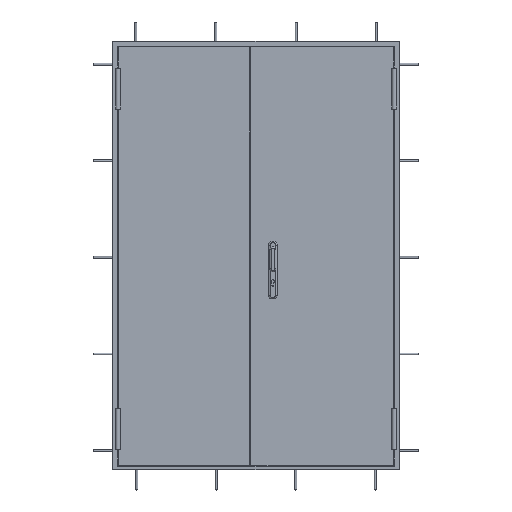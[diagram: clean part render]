
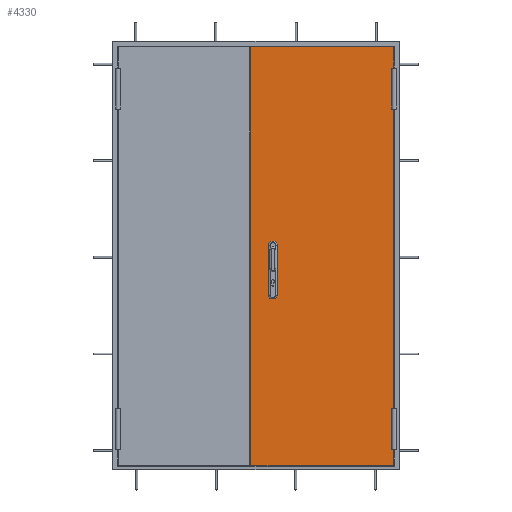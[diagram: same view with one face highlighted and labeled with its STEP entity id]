
A CAD part, top view. The second image highlights one B-rep face of the part: STEP entity #4330.
In plain terms, the highlighted planar face has unit normal (0, 0, 1).
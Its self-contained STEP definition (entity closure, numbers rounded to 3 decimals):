
#1276=DIRECTION('',(0.,1.,0.));
#1277=VECTOR('',#1276,2177.);
#1278=CARTESIAN_POINT('',(-26.5,-1096.5,0.));
#1279=LINE('',#1278,#1277);
#1280=DIRECTION('',(-1.,0.,0.));
#1281=VECTOR('',#1280,742.5);
#1282=CARTESIAN_POINT('',(716.,1080.5,0.));
#1283=LINE('',#1282,#1281);
#1284=DIRECTION('',(0.,1.,0.));
#1285=VECTOR('',#1284,110.5);
#1286=CARTESIAN_POINT('',(716.,970.,0.));
#1287=LINE('',#1286,#1285);
#1288=DIRECTION('',(-1.,0.,0.));
#1289=VECTOR('',#1288,10.25);
#1290=CARTESIAN_POINT('',(716.,970.,0.));
#1291=LINE('',#1290,#1289);
#1292=DIRECTION('',(0.,1.,0.));
#1293=VECTOR('',#1292,213.);
#1294=CARTESIAN_POINT('',(705.75,757.,0.));
#1295=LINE('',#1294,#1293);
#1296=DIRECTION('',(-1.,0.,0.));
#1297=VECTOR('',#1296,10.25);
#1298=CARTESIAN_POINT('',(716.,757.,0.));
#1299=LINE('',#1298,#1297);
#1300=DIRECTION('',(0.,1.,0.));
#1301=VECTOR('',#1300,1557.);
#1302=CARTESIAN_POINT('',(716.,-800.,0.));
#1303=LINE('',#1302,#1301);
#1304=DIRECTION('',(-1.,0.,0.));
#1305=VECTOR('',#1304,10.25);
#1306=CARTESIAN_POINT('',(716.,-800.,0.));
#1307=LINE('',#1306,#1305);
#1308=DIRECTION('',(0.,-1.,0.));
#1309=VECTOR('',#1308,213.);
#1310=CARTESIAN_POINT('',(705.75,-800.,0.));
#1311=LINE('',#1310,#1309);
#1312=DIRECTION('',(-1.,0.,0.));
#1313=VECTOR('',#1312,10.25);
#1314=CARTESIAN_POINT('',(716.,-1013.,0.));
#1315=LINE('',#1314,#1313);
#1316=DIRECTION('',(0.,1.,0.));
#1317=VECTOR('',#1316,83.5);
#1318=CARTESIAN_POINT('',(716.,-1096.5,0.));
#1319=LINE('',#1318,#1317);
#1320=DIRECTION('',(1.,0.,0.));
#1321=VECTOR('',#1320,742.5);
#1322=CARTESIAN_POINT('',(-26.5,-1096.5,0.));
#1323=LINE('',#1322,#1321);
#1372=DIRECTION('',(0.,-1.,0.));
#1373=VECTOR('',#1372,260.);
#1374=CARTESIAN_POINT('',(65.,50.4,0.));
#1375=LINE('',#1374,#1373);
#1376=CARTESIAN_POINT('',(85.,-209.6,0.));
#1377=DIRECTION('',(0.,0.,1.));
#1378=DIRECTION('',(-1.,0.,0.));
#1379=AXIS2_PLACEMENT_3D('',#1376,#1377,#1378);
#1381=DIRECTION('',(1.,0.,0.));
#1382=VECTOR('',#1381,5.);
#1383=CARTESIAN_POINT('',(85.,-229.6,0.));
#1384=LINE('',#1383,#1382);
#1385=CARTESIAN_POINT('',(90.,-209.6,0.));
#1386=DIRECTION('',(0.,0.,1.));
#1387=DIRECTION('',(0.,-1.,0.));
#1388=AXIS2_PLACEMENT_3D('',#1385,#1386,#1387);
#1390=DIRECTION('',(0.,1.,0.));
#1391=VECTOR('',#1390,260.);
#1392=CARTESIAN_POINT('',(110.,-209.6,0.));
#1393=LINE('',#1392,#1391);
#1394=CARTESIAN_POINT('',(90.,50.4,0.));
#1395=DIRECTION('',(0.,0.,1.));
#1396=DIRECTION('',(1.,0.,0.));
#1397=AXIS2_PLACEMENT_3D('',#1394,#1395,#1396);
#1399=DIRECTION('',(-1.,0.,0.));
#1400=VECTOR('',#1399,5.);
#1401=CARTESIAN_POINT('',(90.,70.4,0.));
#1402=LINE('',#1401,#1400);
#1403=CARTESIAN_POINT('',(85.,50.4,0.));
#1404=DIRECTION('',(0.,0.,1.));
#1405=DIRECTION('',(0.,1.,0.));
#1406=AXIS2_PLACEMENT_3D('',#1403,#1404,#1405);
#2319=CARTESIAN_POINT('',(716.,-1096.5,0.));
#2320=VERTEX_POINT('',#2319);
#2321=CARTESIAN_POINT('',(716.,1080.5,0.));
#2322=VERTEX_POINT('',#2321);
#2379=CARTESIAN_POINT('',(716.,-1013.,0.));
#2380=CARTESIAN_POINT('',(705.75,-1013.,0.));
#2381=VERTEX_POINT('',#2379);
#2382=VERTEX_POINT('',#2380);
#2383=CARTESIAN_POINT('',(716.,-800.,0.));
#2384=CARTESIAN_POINT('',(705.75,-800.,0.));
#2385=VERTEX_POINT('',#2383);
#2386=VERTEX_POINT('',#2384);
#2403=CARTESIAN_POINT('',(716.,970.,0.));
#2404=CARTESIAN_POINT('',(705.75,970.,0.));
#2405=VERTEX_POINT('',#2403);
#2406=VERTEX_POINT('',#2404);
#2407=CARTESIAN_POINT('',(716.,757.,0.));
#2408=CARTESIAN_POINT('',(705.75,757.,0.));
#2409=VERTEX_POINT('',#2407);
#2410=VERTEX_POINT('',#2408);
#2419=CARTESIAN_POINT('',(-26.5,-1096.5,0.));
#2420=CARTESIAN_POINT('',(-26.5,1080.5,0.));
#2421=VERTEX_POINT('',#2419);
#2422=VERTEX_POINT('',#2420);
#2691=CARTESIAN_POINT('',(65.,50.4,0.));
#2692=CARTESIAN_POINT('',(65.,-209.6,0.));
#2693=VERTEX_POINT('',#2691);
#2694=VERTEX_POINT('',#2692);
#2695=CARTESIAN_POINT('',(85.,-229.6,0.));
#2696=CARTESIAN_POINT('',(90.,-229.6,0.));
#2697=VERTEX_POINT('',#2695);
#2698=VERTEX_POINT('',#2696);
#2699=CARTESIAN_POINT('',(110.,-209.6,0.));
#2700=CARTESIAN_POINT('',(110.,50.4,0.));
#2701=VERTEX_POINT('',#2699);
#2702=VERTEX_POINT('',#2700);
#2703=CARTESIAN_POINT('',(90.,70.4,0.));
#2704=CARTESIAN_POINT('',(85.,70.4,0.));
#2705=VERTEX_POINT('',#2703);
#2706=VERTEX_POINT('',#2704);
#4282=CARTESIAN_POINT('',(0.,0.,0.));
#4283=DIRECTION('',(0.,0.,1.));
#4284=DIRECTION('',(1.,0.,0.));
#4285=AXIS2_PLACEMENT_3D('',#4282,#4283,#4284);
#4286=PLANE('',#4285);
#4288=ORIENTED_EDGE('',*,*,#4287,.T.);
#4290=ORIENTED_EDGE('',*,*,#4289,.F.);
#4292=ORIENTED_EDGE('',*,*,#4291,.F.);
#4293=ORIENTED_EDGE('',*,*,#4261,.T.);
#4295=ORIENTED_EDGE('',*,*,#4294,.F.);
#4297=ORIENTED_EDGE('',*,*,#4296,.F.);
#4299=ORIENTED_EDGE('',*,*,#4298,.F.);
#4301=ORIENTED_EDGE('',*,*,#4300,.T.);
#4303=ORIENTED_EDGE('',*,*,#4302,.T.);
#4305=ORIENTED_EDGE('',*,*,#4304,.F.);
#4307=ORIENTED_EDGE('',*,*,#4306,.F.);
#4309=ORIENTED_EDGE('',*,*,#4308,.F.);
#4310=EDGE_LOOP('',(#4288,#4290,#4292,#4293,#4295,#4297,#4299,#4301,#4303,#4305,
#4307,#4309));
#4311=FACE_OUTER_BOUND('',#4310,.F.);
#4313=ORIENTED_EDGE('',*,*,#4312,.T.);
#4315=ORIENTED_EDGE('',*,*,#4314,.T.);
#4317=ORIENTED_EDGE('',*,*,#4316,.T.);
#4319=ORIENTED_EDGE('',*,*,#4318,.T.);
#4321=ORIENTED_EDGE('',*,*,#4320,.T.);
#4323=ORIENTED_EDGE('',*,*,#4322,.T.);
#4325=ORIENTED_EDGE('',*,*,#4324,.T.);
#4327=ORIENTED_EDGE('',*,*,#4326,.T.);
#4328=EDGE_LOOP('',(#4313,#4315,#4317,#4319,#4321,#4323,#4325,#4327));
#4329=FACE_BOUND('',#4328,.F.);
#1380=CIRCLE('',#1379,20.);
#1389=CIRCLE('',#1388,20.);
#1398=CIRCLE('',#1397,20.);
#1407=CIRCLE('',#1406,20.);
#4261=EDGE_CURVE('',#2405,#2406,#1291,.T.);
#4287=EDGE_CURVE('',#2421,#2422,#1279,.T.);
#4289=EDGE_CURVE('',#2322,#2422,#1283,.T.);
#4291=EDGE_CURVE('',#2405,#2322,#1287,.T.);
#4294=EDGE_CURVE('',#2410,#2406,#1295,.T.);
#4296=EDGE_CURVE('',#2409,#2410,#1299,.T.);
#4298=EDGE_CURVE('',#2385,#2409,#1303,.T.);
#4300=EDGE_CURVE('',#2385,#2386,#1307,.T.);
#4302=EDGE_CURVE('',#2386,#2382,#1311,.T.);
#4304=EDGE_CURVE('',#2381,#2382,#1315,.T.);
#4306=EDGE_CURVE('',#2320,#2381,#1319,.T.);
#4308=EDGE_CURVE('',#2421,#2320,#1323,.T.);
#4312=EDGE_CURVE('',#2693,#2694,#1375,.T.);
#4314=EDGE_CURVE('',#2694,#2697,#1380,.T.);
#4316=EDGE_CURVE('',#2697,#2698,#1384,.T.);
#4318=EDGE_CURVE('',#2698,#2701,#1389,.T.);
#4320=EDGE_CURVE('',#2701,#2702,#1393,.T.);
#4322=EDGE_CURVE('',#2702,#2705,#1398,.T.);
#4324=EDGE_CURVE('',#2705,#2706,#1402,.T.);
#4326=EDGE_CURVE('',#2706,#2693,#1407,.T.);
#4330=ADVANCED_FACE('',(#4311,#4329),#4286,.T.);
